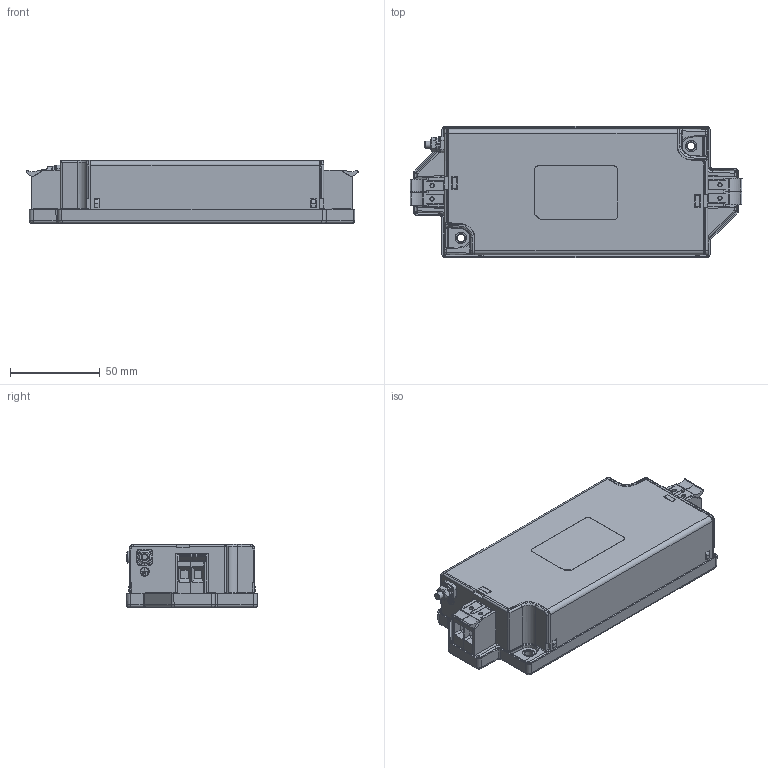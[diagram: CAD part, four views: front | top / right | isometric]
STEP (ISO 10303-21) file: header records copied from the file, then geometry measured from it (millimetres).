
FILE_DESCRIPTION(/* description */ (''),/* implementation_level */ '2;1');
FILE_NAME(/* name */ 'C:\Users\Christian.Ackermann\OneDrive - Schaffner EMV AG\Desktop\UMA_customerSTEP\FN252x-xx-103.stp',/* time_stamp */ '2021-11-30T10:18:30+01:00',/* author */ ('Christian.Ackermann'),/* organization */ (''),/* preprocessor_version */ 'ST-DEVELOPER v18.1',/* originating_system */ 'Autodesk Inventor 2020',/* authorisation */ '');
FILE_SCHEMA (('AUTOMOTIVE_DESIGN { 1 0 10303 214 3 1 1 }'));
Products named in the file (1): FN252x-xx-103
Bounding box: 184.61 x 73 x 35.07 mm (x, y, z)
Volume: 362304.8 mm3; surface area: 63839 mm2
Topology: 5 solids, 5 shells, 1535 faces, 4049 edges, 2565 vertices
Faces by surface type: plane 877, cylinder 441, bspline 146, cone 28, torus 23, sphere 20
Full cylindrical faces by diameter (mm): 0.8 x25, 2 x5, 2.2 x2, 4 x2, 4.2 x2, 4.3 x1, 6.4 x2, 6.5 x1, 8.39 x4, 8.74 x6, 9 x1
Entity records: 52807 total; most frequent: CARTESIAN_POINT 12972, ORIENTED_EDGE 8090, DIRECTION 7807, EDGE_CURVE 4045, LINE 2713, VECTOR 2713, VERTEX_POINT 2565, AXIS2_PLACEMENT_3D 2547
